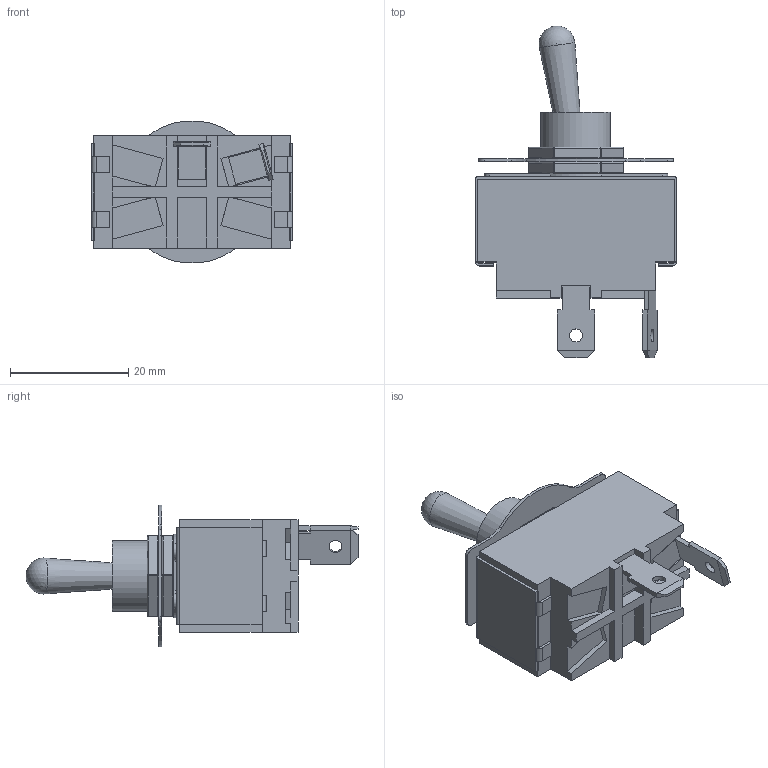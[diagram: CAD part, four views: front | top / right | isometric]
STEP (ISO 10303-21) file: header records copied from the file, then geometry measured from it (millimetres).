
FILE_DESCRIPTION(/* description */ (''),/* implementation_level */ '2;1');
FILE_NAME(/* name */ 'TB2-1A-DC-1.stp',/* time_stamp */ '2024-01-05T13:04:52-08:00',/* author */ ('RaniahC'),/* organization */ (''),/* preprocessor_version */ 'ST-DEVELOPER v19.2',/* originating_system */ 'Autodesk Inventor 2024',/* authorisation */ '');
FILE_SCHEMA (('AUTOMOTIVE_DESIGN { 1 0 10303 214 3 1 1 }'));
Products named in the file (6): Assembly1; 7343K772_Toggle Switch; Metal Band real; clips; onoff panel; Hex Panel nut
Assembly tree (9 placements, depth 2):
  Assembly1
    7343K772_Toggle Switch
    Metal Band real
    clips  x4
    onoff panel
    Hex Panel nut  x2
Bounding box: 34.2 x 56.26 x 24.06 mm (x, y, z)
Volume: 13472.8 mm3; surface area: 8735.4 mm2
Topology: 12 solids, 12 shells, 261 faces, 619 edges, 383 vertices
Faces by surface type: plane 160, cylinder 74, sphere 25, cone 2
Full cylindrical faces by diameter (mm): 2.184 x2, 8.636 x1, 11.8 x2, 11.92 x1, 12.15 x1
Entity records: 6028 total; most frequent: DIRECTION 1014, CARTESIAN_POINT 1009, ORIENTED_EDGE 974, EDGE_CURVE 487, LINE 386, VECTOR 386, AXIS2_PLACEMENT_3D 314, VERTEX_POINT 309
